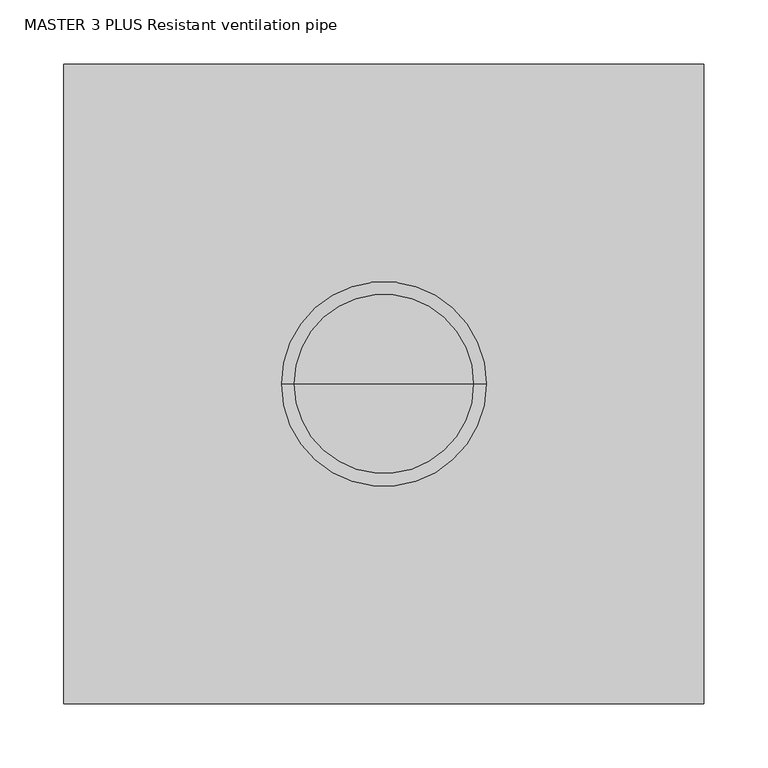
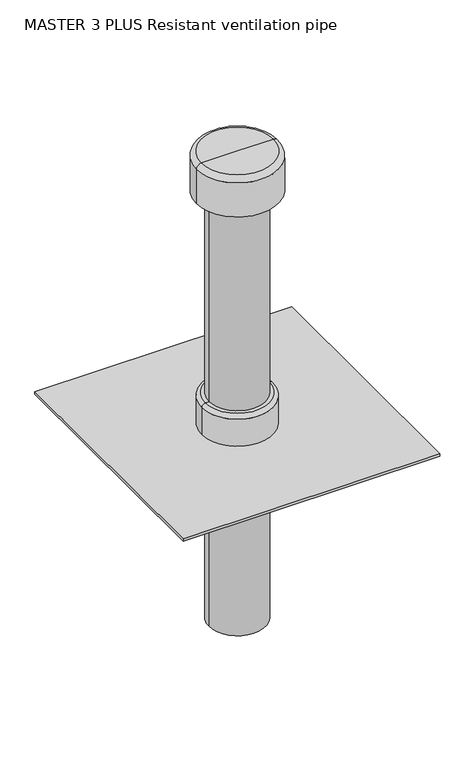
"""IFC4 building model written with IfcOpenShell, lengths in millimetres: valve geometry, MASTER 3 PLUS Resistant ventilation pipe : DN110, Lesp = 400, L3 = 560 mm."""

from ifc_helpers import new_model, si_unit, point, frame, origin, origin_with_axes, origin_2d, place, context, project, spatial, polyline, circle_curve, ellipse_curve, trimmed, segment, composite_curve, outline, extrude, source, transform, mapped, element, save
from ifc_brep_helpers import plane_surface, cylinder_surface, revolved_surface, advanced_brep


def master_3_plus_resistant_ventilation_pipe_c75332b6(model_context):
    return source(origin(), model_context, "Body", "SolidModel", [
        advanced_brep(
        [(70.0, 0.0, 960.0), (-70.0, 0.0, 960.0), (0.0, 0.0, 960.0), (80.0, 0.0, 880.0), (-80.0, 0.0, 880.0), (-80.0, 0.0, 950.0), (80.0, 0.0, 950.0), (0.0, 0.0, 880.0)],
        [
            (0, 1, circle_curve(frame((0.0, 0.0, 960.0), z_axis=(0.0, 0.0, 1.0), x_axis=(-1.0, 0.0, 0.0)), 70.0)),
            (1, 2),
            (2, 0),
            (1, 0, circle_curve(frame((0.0, 0.0, 960.0), z_axis=(0.0, 0.0, 1.0), x_axis=(-1.0, 0.0, 0.0)), 70.0)),
            (3, 4, circle_curve(frame((0.0, 0.0, 880.0), z_axis=(0.0, 0.0, 1.0), x_axis=(-1.0, 0.0, 0.0)), 80.0)),
            (4, 5),
            (5, 6, circle_curve(frame((0.0, 0.0, 950.0), z_axis=(0.0, 0.0, -1.0), x_axis=(-1.0, 0.0, 0.0)), 80.0)),
            (6, 3),
            (4, 3, circle_curve(frame((0.0, 0.0, 880.0), z_axis=(0.0, 0.0, 1.0), x_axis=(-1.0, 0.0, 0.0)), 80.0)),
            (6, 5, circle_curve(frame((0.0, 0.0, 950.0), z_axis=(0.0, 0.0, -1.0), x_axis=(-1.0, 0.0, 0.0)), 80.0)),
            (7, 4),
            (3, 7),
            (5, 1, circle_curve(frame((-70.0, 0.0, 950.0), z_axis=(0.0, 1.0, 0.0), x_axis=(1.0, 0.0, 0.0)), 10.0)),
            (0, 6, circle_curve(frame((70.0, 0.0, 950.0), z_axis=(0.0, 1.0, 0.0), x_axis=(-1.0, 0.0, 0.0)), 10.0)),
        ],
        [
            plane_surface(frame((0.0, 0.0, 960.0), z_axis=(0.0, 0.0, 1.0), x_axis=(-1.0, 0.0, 0.0))),
            cylinder_surface(frame((0.0, 0.0, 960.0), z_axis=(0.0, 0.0, -1.0), x_axis=(-1.0, 0.0, 0.0)), 80.0),
            plane_surface(frame((0.0, 0.0, 880.0), z_axis=(0.0, 0.0, -1.0), x_axis=(-1.0, 0.0, 0.0))),
            revolved_surface(trimmed(ellipse_curve(frame((-70.0, 0.0, 950.0), z_axis=(0.0, -1.0, 0.0), x_axis=(1.0, 0.0, 0.0)), 10.0, 10.0), [point((-70.0, 0.0, 960.0))], [point((-80.0, 0.0, 950.0))], True, "CARTESIAN"), (0.0, 0.0, 960.0), (0.0, 0.0, -1.0)),
        ],
        [
            (0, [[1, 2, 3]]),
            (0, [[4, -3, -2]]),
            (1, [[5, 6, 7, 8]]),
            (1, [[9, -8, 10, -6]]),
            (2, [[11, -5, 12]]),
            (2, [[-12, -9, -11]]),
            (3, [[-7, 13, -1, 14]]),
            (3, [[-10, -14, -4, -13]]),
        ],
    ),
        extrude(outline(polyline([(250.0, 250.0), (250.0, -250.0), (-250.0, -250.0), (-250.0, 250.0), (250.0, 250.0)]), holes=[composite_curve([segment(trimmed(circle_curve(origin_2d(), 55.0), [point((-55.0, 0.0))], [point((55.0, 0.0))], True, "CARTESIAN"), True, "CONTINUOUS"), segment(trimmed(circle_curve(origin_2d(), 55.0), [point((55.0, 0.0))], [point((-55.0, 0.0))], True, "CARTESIAN"), True, "CONTINUOUS")], self_intersect=False)]), frame((0.0, 0.0, 394.9838403), z_axis=(0.0, 0.0, 1.0), x_axis=(1.0, 0.0, 0.0)), (0.0, 0.0, 1.0), 5.0161597),
        advanced_brep(
        [(69.5, 0.0, 400.0), (-69.5, 0.0, 400.0), (-69.5, 0.0, 455.75), (69.5, 0.0, 455.75), (55.0, 0.0, 400.0), (-55.0, 0.0, 400.0), (55.0, 0.0, 463.0), (-55.0, 0.0, 463.0), (62.25, 0.0, 463.0), (-62.25, 0.0, 463.0)],
        [
            (0, 1, circle_curve(frame((0.0, 0.0, 400.0), z_axis=(0.0, 0.0, 1.0), x_axis=(-1.0, 0.0, 0.0)), 69.5)),
            (1, 2),
            (2, 3, circle_curve(frame((0.0, 0.0, 455.75), z_axis=(0.0, 0.0, -1.0), x_axis=(-1.0, 0.0, 0.0)), 69.5)),
            (3, 0),
            (1, 0, circle_curve(frame((0.0, 0.0, 400.0), z_axis=(0.0, 0.0, 1.0), x_axis=(-1.0, 0.0, 0.0)), 69.5)),
            (3, 2, circle_curve(frame((0.0, 0.0, 455.75), z_axis=(0.0, 0.0, -1.0), x_axis=(-1.0, 0.0, 0.0)), 69.5)),
            (4, 5, circle_curve(frame((0.0, 0.0, 400.0), z_axis=(0.0, 0.0, 1.0), x_axis=(-1.0, 0.0, 0.0)), 55.0)),
            (5, 1),
            (0, 4),
            (5, 4, circle_curve(frame((0.0, 0.0, 400.0), z_axis=(0.0, 0.0, 1.0), x_axis=(-1.0, 0.0, 0.0)), 55.0)),
            (6, 7, circle_curve(frame((0.0, 0.0, 463.0), z_axis=(0.0, 0.0, 1.0), x_axis=(-1.0, 0.0, 0.0)), 55.0)),
            (7, 5),
            (4, 6),
            (7, 6, circle_curve(frame((0.0, 0.0, 463.0), z_axis=(0.0, 0.0, 1.0), x_axis=(-1.0, 0.0, 0.0)), 55.0)),
            (8, 9, circle_curve(frame((0.0, 0.0, 463.0), z_axis=(0.0, 0.0, 1.0), x_axis=(-1.0, 0.0, 0.0)), 62.25)),
            (9, 7),
            (6, 8),
            (9, 8, circle_curve(frame((0.0, 0.0, 463.0), z_axis=(0.0, 0.0, 1.0), x_axis=(-1.0, 0.0, 0.0)), 62.25)),
            (2, 9, circle_curve(frame((-62.25, 0.0, 455.75), z_axis=(0.0, 1.0, 0.0), x_axis=(1.0, 0.0, 0.0)), 7.25)),
            (8, 3, circle_curve(frame((62.25, 0.0, 455.75), z_axis=(0.0, 1.0, 0.0), x_axis=(-1.0, 0.0, 0.0)), 7.25)),
        ],
        [
            cylinder_surface(frame((0.0, 0.0, 463.0), z_axis=(0.0, 0.0, -1.0), x_axis=(-1.0, 0.0, 0.0)), 69.5),
            plane_surface(frame((0.0, 0.0, 400.0), z_axis=(0.0, 0.0, -1.0), x_axis=(-1.0, 0.0, 0.0))),
            revolved_surface(polyline([(-55.0, 0.0, 400.0), (-55.0, 0.0, 463.0)]), (0.0, 0.0, 463.0), (0.0, 0.0, -1.0)),
            plane_surface(frame((0.0, 0.0, 463.0), z_axis=(0.0, 0.0, 1.0), x_axis=(-1.0, 0.0, 0.0))),
            revolved_surface(trimmed(ellipse_curve(frame((-62.25, 0.0, 455.75), z_axis=(0.0, -1.0, 0.0), x_axis=(1.0, 0.0, 0.0)), 7.25, 7.25), [point((-62.25, 0.0, 463.0))], [point((-69.5, 0.0, 455.75))], True, "CARTESIAN"), (0.0, 0.0, 463.0), (0.0, 0.0, -1.0)),
        ],
        [
            (0, [[1, 2, 3, 4]]),
            (0, [[5, -4, 6, -2]]),
            (1, [[7, 8, -1, 9]]),
            (1, [[10, -9, -5, -8]]),
            (2, [[11, 12, -7, 13]]),
            (2, [[14, -13, -10, -12]]),
            (3, [[15, 16, -11, 17]]),
            (3, [[18, -17, -14, -16]]),
            (4, [[-3, 19, -15, 20]]),
            (4, [[-6, -20, -18, -19]]),
        ],
    ),
        extrude(outline(composite_curve([segment(trimmed(circle_curve(origin_2d(), 55.0), [point((55.0, 0.0))], [point((-55.0, 0.0))], False, "CARTESIAN"), True, "CONTINUOUS"), segment(trimmed(circle_curve(origin_2d(), 55.0), [point((-55.0, 0.0))], [point((55.0, 0.0))], False, "CARTESIAN"), True, "CONTINUOUS")], self_intersect=False)), frame((0.0, 0.0, 400.0), z_axis=(0.0, 0.0, 1.0), x_axis=(1.0, 0.0, 0.0)), (0.0, 0.0, 1.0), 532.0),
        extrude(outline(composite_curve([segment(trimmed(circle_curve(origin_2d(), 55.0), [point((-55.0, 0.0))], [point((55.0, 0.0))], False, "CARTESIAN"), True, "CONTINUOUS"), segment(trimmed(circle_curve(origin_2d(), 55.0), [point((55.0, 0.0))], [point((-55.0, 0.0))], False, "CARTESIAN"), True, "CONTINUOUS")], self_intersect=False)), origin_with_axes(), (0.0, 0.0, 1.0), 394.9838403),
    ])


if __name__ == "__main__":
    model = new_model("IFC4")
    model_context = context("Model", 3, world=origin())
    ifc_project = project(units=[si_unit("LENGTHUNIT", "METRE", prefix="MILLI")], contexts=[model_context])
    site = spatial("IfcSite", under=ifc_project)
    building = spatial("IfcBuilding", under=site)
    placement = place(None, origin())
    master_3_plus_resistant_ventilation_pipe_shape = master_3_plus_resistant_ventilation_pipe_c75332b6(model_context)
    element("IfcValve", 1, ObjectType="MASTER 3 PLUS Resistant ventilation pipe : DN110, Lesp = 400, L3 = 560 mm", at=placement, inside=building, context=model_context, shape_type="MappedRepresentation", body=[
        mapped(master_3_plus_resistant_ventilation_pipe_shape, transform((0.0, 0.0, 0.0), x_axis=(1.0, 0.0, 0.0), y_axis=(0.0, 1.0, 0.0), z_axis=(0.0, 0.0, 1.0))),
    ])
    save(model, "model.ifc")
